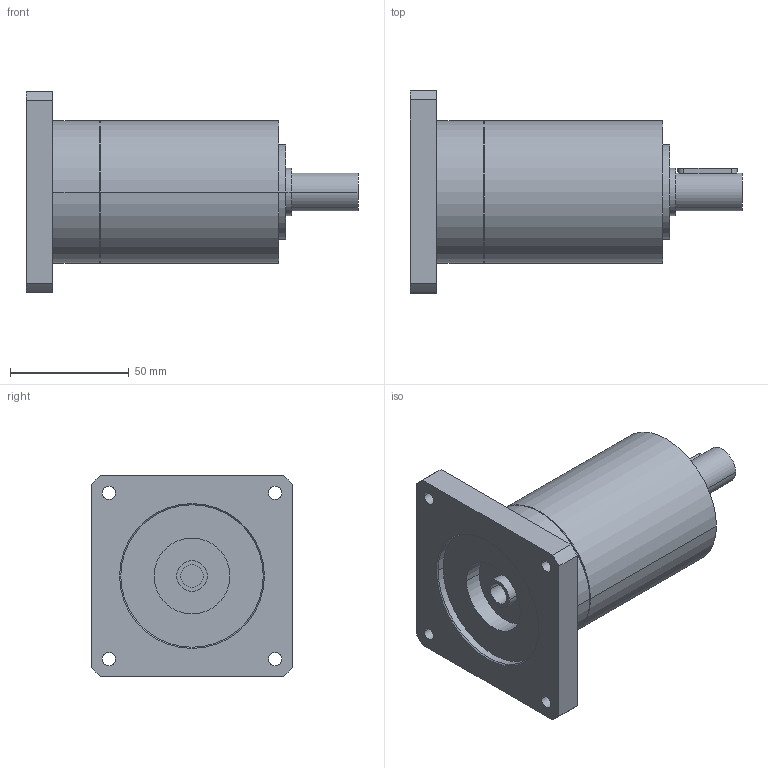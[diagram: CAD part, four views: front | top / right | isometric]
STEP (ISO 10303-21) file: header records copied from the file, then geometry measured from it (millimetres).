
FILE_DESCRIPTION(('CoCreate Modeling STEP Export'),'2;1');
FILE_NAME('GPR75_ig-9-12-16-20-24-30-36_16_B14_9.52_P33.stp','2014-08-25T16:07:04',(''),(''),'CoCreate Modeling STEP processor for AP214 (Solid Model)','CoCreate Modeling 16.00C 25-Feb-2009 (C) Parametric Technology GmbH','');
FILE_SCHEMA(('AUTOMOTIVE_DESIGN { 1 0 10303 214 1 1 1 1 }'));
Length unit declared in the file: millimetre
Products named in the file (2): GPR75_ig-9-12-16-20-24-30-36_16_B14_9.52_P33
Assembly tree (1 placements, depth 2):
  GPR75_ig-9-12-16-20-24-30-36_16_B14_9.52_P33
    GPR75_ig-9-12-16-20-24-30-36_16_B14_9.52_P33
Bounding box: 139.9 x 85 x 85 mm (x, y, z)
Volume: 340572.8 mm3; surface area: 41746.9 mm2
Topology: 1 solids, 1 shells, 72 faces, 185 edges, 127 vertices
Faces by surface type: cylinder 42, plane 22, cone 8
Entity records: 1944 total; most frequent: ORIENTED_EDGE 366, CARTESIAN_POINT 359, DIRECTION 268, EDGE_CURVE 183, VERTEX_POINT 127, AXIS2_PLACEMENT_3D 100, EDGE_LOOP 94, FACE_OUTER_BOUND 72
